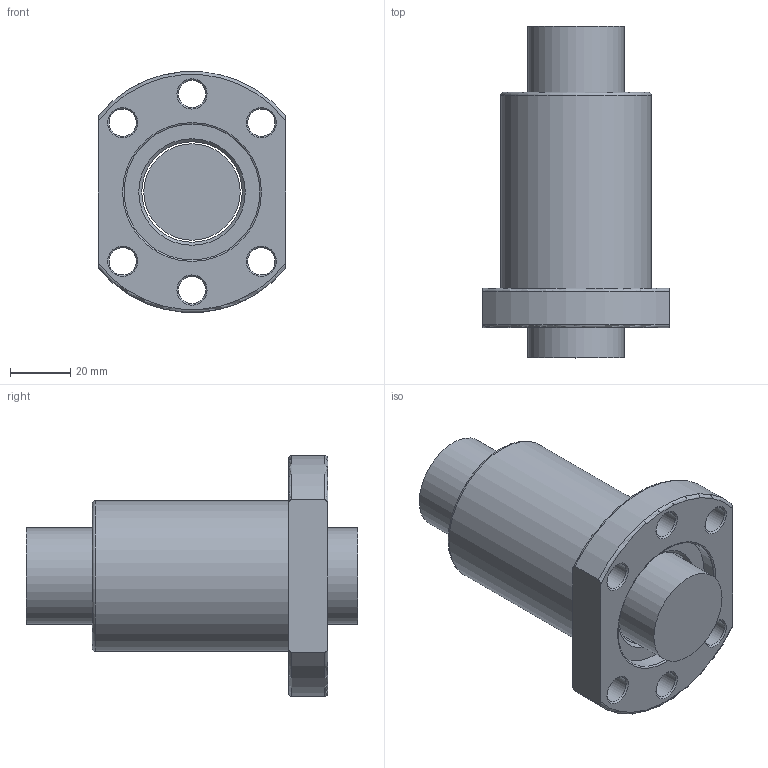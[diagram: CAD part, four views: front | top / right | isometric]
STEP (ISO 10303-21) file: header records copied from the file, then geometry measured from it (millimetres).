
FILE_DESCRIPTION(/* description */ (''),/* implementation_level */ '2;1');
FILE_NAME(/* name */ '3220.prt.step',/* time_stamp */ '2008-12-05T09:30:35+08:00',/* author */ (''),/* organization */ (''),/* preprocessor_version */ 'ST-DEVELOPER v11',/* originating_system */ 'SIEMENS UGS NX 6.0',/* authorisation */ '');
FILE_SCHEMA (('AUTOMOTIVE_DESIGN { 1 0 10303 214 1 1 1 1 }'));
Length unit declared in the file: millimetre
Products named in the file (1): 3220
Bounding box: 62 x 110 x 79.74 mm (x, y, z)
Volume: 192889.8 mm3; surface area: 42575.2 mm2
Topology: 2 solids, 2 shells, 43 faces, 95 edges, 59 vertices
Faces by surface type: cone 14, cylinder 13, plane 9, torus 7
Full cylindrical faces by diameter (mm): 9 x6, 31.95 x1, 33.3 x1, 45 x2, 50 x1
Entity records: 1178 total; most frequent: CARTESIAN_POINT 282, DIRECTION 190, ORIENTED_EDGE 126, AXIS2_PLACEMENT_3D 91, EDGE_LOOP 88, FACE_BOUND 78, EDGE_CURVE 63, VERTEX_POINT 55
